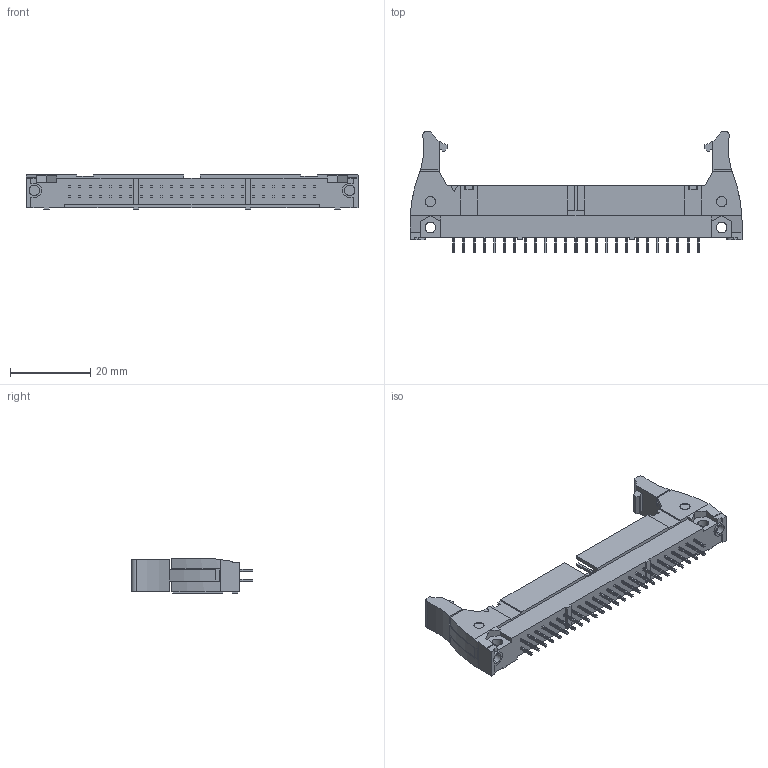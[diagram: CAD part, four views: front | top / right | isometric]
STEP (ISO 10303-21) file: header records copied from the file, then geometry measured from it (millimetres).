
FILE_DESCRIPTION (( 'STEP AP214' ), '1' );
FILE_NAME ('XG4A_5031.step', '2019-03-18T12:23:20', ( 'OSMC1.0 ' ), ( ' ' ), 'SwSTEP 2.0', 'SolidWorks 2002025', '' );
FILE_SCHEMA (( 'AUTOMOTIVE_DESIGN' ));
Length unit declared in the file: millimetre
Products named in the file (1): XG4A_5031
Bounding box: 82.8 x 30.2 x 8.5 mm (x, y, z)
Volume: 6386.4 mm3; surface area: 6762.6 mm2
Topology: 1 solids, 1 shells, 891 faces, 2347 edges, 1560 vertices
Faces by surface type: plane 861, cylinder 30
Entity records: 31859 total; most frequent: CARTESIAN_POINT 4805, ORIENTED_EDGE 4694, DIRECTION 4217, EDGE_CURVE 2347, VECTOR 2257, LINE 2257, VERTEX_POINT 1560, EDGE_LOOP 997
